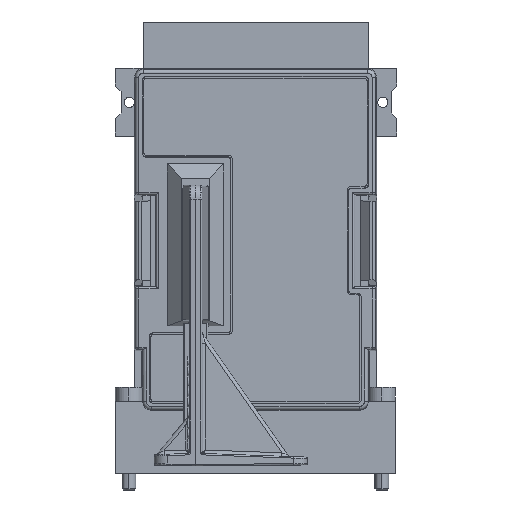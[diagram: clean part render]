
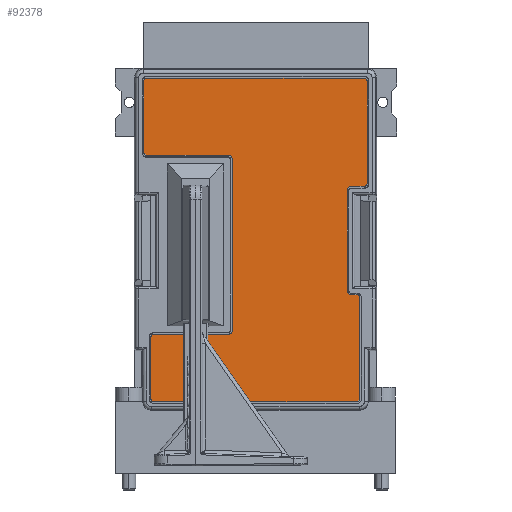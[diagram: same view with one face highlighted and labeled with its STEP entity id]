
A CAD part, front view. The second image highlights one B-rep face of the part: STEP entity #92378.
In plain terms, the highlighted planar face has unit normal (0, -1, 0) as drawn and (0, 0, 1) by its records, which use the part's own axes.
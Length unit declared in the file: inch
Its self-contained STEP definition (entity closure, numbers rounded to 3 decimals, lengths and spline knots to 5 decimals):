
#91656=CARTESIAN_POINT('',(0.1925,0.605,0.015));
#91657=DIRECTION('',(0.,0.,-1.));
#91658=DIRECTION('',(-1.,0.,0.));
#91659=AXIS2_PLACEMENT_3D('',#91656,#91657,#91658);
#91674=CARTESIAN_POINT('',(0.1925,-0.605,0.015));
#91675=DIRECTION('',(0.,0.,-1.));
#91676=DIRECTION('',(0.,-1.,0.));
#91677=AXIS2_PLACEMENT_3D('',#91674,#91675,#91676);
#91724=CARTESIAN_POINT('',(-0.6825,-0.385,0.015));
#91725=DIRECTION('',(0.,0.,-1.));
#91726=DIRECTION('',(1.,0.,0.));
#91727=AXIS2_PLACEMENT_3D('',#91724,#91725,#91726);
#91742=CARTESIAN_POINT('',(-0.6825,0.325,0.015));
#91743=DIRECTION('',(0.,0.,-1.));
#91744=DIRECTION('',(0.,1.,0.));
#91745=AXIS2_PLACEMENT_3D('',#91742,#91743,#91744);
#91771=CARTESIAN_POINT('',(0.7225,1.095,0.015));
#91772=DIRECTION('',(0.,0.,1.));
#91773=DIRECTION('',(1.,0.,0.));
#91774=AXIS2_PLACEMENT_3D('',#91771,#91772,#91773);
#91776=DIRECTION('',(0.,1.,0.));
#91777=VECTOR('',#91776,0.44);
#91778=CARTESIAN_POINT('',(0.7425,0.655,0.015));
#91779=LINE('',#91778,#91777);
#91780=CARTESIAN_POINT('',(0.7225,0.655,0.015));
#91781=DIRECTION('',(0.,0.,1.));
#91782=DIRECTION('',(0.,-1.,0.));
#91783=AXIS2_PLACEMENT_3D('',#91780,#91781,#91782);
#91785=DIRECTION('',(1.,0.,0.));
#91786=VECTOR('',#91785,0.53);
#91787=CARTESIAN_POINT('',(0.1925,0.635,0.015));
#91788=LINE('',#91787,#91786);
#91789=DIRECTION('',(0.,1.,0.));
#91790=VECTOR('',#91789,1.21);
#91791=CARTESIAN_POINT('',(0.1625,-0.605,0.015));
#91792=LINE('',#91791,#91790);
#91793=DIRECTION('',(-1.,0.,0.));
#91794=VECTOR('',#91793,0.58);
#91795=CARTESIAN_POINT('',(0.7725,-0.635,0.015));
#91796=LINE('',#91795,#91794);
#91797=CARTESIAN_POINT('',(0.7725,-0.655,0.015));
#91798=DIRECTION('',(0.,0.,1.));
#91799=DIRECTION('',(1.,0.,0.));
#91800=AXIS2_PLACEMENT_3D('',#91797,#91798,#91799);
#91802=DIRECTION('',(0.,1.,0.));
#91803=VECTOR('',#91802,0.51);
#91804=CARTESIAN_POINT('',(0.7925,-1.165,0.015));
#91805=LINE('',#91804,#91803);
#91806=CARTESIAN_POINT('',(0.7725,-1.165,0.015));
#91807=DIRECTION('',(0.,0.,1.));
#91808=DIRECTION('',(0.,-1.,0.));
#91809=AXIS2_PLACEMENT_3D('',#91806,#91807,#91808);
#91811=DIRECTION('',(1.,0.,0.));
#91812=VECTOR('',#91811,1.545);
#91813=CARTESIAN_POINT('',(-0.7725,-1.185,0.015));
#91814=LINE('',#91813,#91812);
#91815=CARTESIAN_POINT('',(-0.7725,-1.165,0.015));
#91816=DIRECTION('',(0.,0.,1.));
#91817=DIRECTION('',(-1.,0.,0.));
#91818=AXIS2_PLACEMENT_3D('',#91815,#91816,#91817);
#91820=DIRECTION('',(0.,-1.,0.));
#91821=VECTOR('',#91820,0.73);
#91822=CARTESIAN_POINT('',(-0.7925,-0.435,0.015));
#91823=LINE('',#91822,#91821);
#91824=CARTESIAN_POINT('',(-0.7725,-0.435,0.015));
#91825=DIRECTION('',(0.,0.,1.));
#91826=DIRECTION('',(0.,1.,0.));
#91827=AXIS2_PLACEMENT_3D('',#91824,#91825,#91826);
#91829=DIRECTION('',(-1.,0.,0.));
#91830=VECTOR('',#91829,0.09);
#91831=CARTESIAN_POINT('',(-0.6825,-0.415,0.015));
#91832=LINE('',#91831,#91830);
#91833=DIRECTION('',(0.,-1.,0.));
#91834=VECTOR('',#91833,0.71);
#91835=CARTESIAN_POINT('',(-0.6525,0.325,0.015));
#91836=LINE('',#91835,#91834);
#91837=DIRECTION('',(1.,0.,0.));
#91838=VECTOR('',#91837,0.04);
#91839=CARTESIAN_POINT('',(-0.7225,0.355,0.015));
#91840=LINE('',#91839,#91838);
#91841=CARTESIAN_POINT('',(-0.7225,0.375,0.015));
#91842=DIRECTION('',(0.,0.,1.));
#91843=DIRECTION('',(-1.,0.,0.));
#91844=AXIS2_PLACEMENT_3D('',#91841,#91842,#91843);
#91846=DIRECTION('',(0.,-1.,0.));
#91847=VECTOR('',#91846,0.72);
#91848=CARTESIAN_POINT('',(-0.7425,1.095,0.015));
#91849=LINE('',#91848,#91847);
#91850=CARTESIAN_POINT('',(-0.7225,1.095,0.015));
#91851=DIRECTION('',(0.,0.,1.));
#91852=DIRECTION('',(0.,1.,0.));
#91853=AXIS2_PLACEMENT_3D('',#91850,#91851,#91852);
#91855=DIRECTION('',(-1.,0.,0.));
#91856=VECTOR('',#91855,1.445);
#91857=CARTESIAN_POINT('',(0.7225,1.115,0.015));
#91858=LINE('',#91857,#91856);
#91860=CARTESIAN_POINT('',(-0.6525,0.325,0.015));
#91862=VERTEX_POINT('',#91860);
#91864=CARTESIAN_POINT('',(-0.6825,0.355,0.015));
#91866=VERTEX_POINT('',#91864);
#91868=CARTESIAN_POINT('',(-0.6825,-0.415,0.015));
#91870=VERTEX_POINT('',#91868);
#91872=CARTESIAN_POINT('',(-0.6525,-0.385,0.015));
#91874=VERTEX_POINT('',#91872);
#91876=CARTESIAN_POINT('',(0.1625,-0.605,0.015));
#91878=VERTEX_POINT('',#91876);
#91880=CARTESIAN_POINT('',(0.1925,-0.635,0.015));
#91882=VERTEX_POINT('',#91880);
#91884=CARTESIAN_POINT('',(0.1925,0.635,0.015));
#91886=VERTEX_POINT('',#91884);
#91888=CARTESIAN_POINT('',(0.1625,0.605,0.015));
#91890=VERTEX_POINT('',#91888);
#91895=CARTESIAN_POINT('',(0.7425,1.095,0.015));
#91896=VERTEX_POINT('',#91895);
#91897=CARTESIAN_POINT('',(0.7225,1.115,0.015));
#91898=VERTEX_POINT('',#91897);
#91903=CARTESIAN_POINT('',(-0.7225,1.115,0.015));
#91904=VERTEX_POINT('',#91903);
#91905=CARTESIAN_POINT('',(-0.7425,1.095,0.015));
#91906=VERTEX_POINT('',#91905);
#91911=CARTESIAN_POINT('',(-0.7425,0.375,0.015));
#91912=VERTEX_POINT('',#91911);
#91913=CARTESIAN_POINT('',(-0.7225,0.355,0.015));
#91914=VERTEX_POINT('',#91913);
#91919=CARTESIAN_POINT('',(-0.7725,-0.415,0.015));
#91920=VERTEX_POINT('',#91919);
#91921=CARTESIAN_POINT('',(-0.7925,-0.435,0.015));
#91922=VERTEX_POINT('',#91921);
#91927=CARTESIAN_POINT('',(-0.7925,-1.165,0.015));
#91928=VERTEX_POINT('',#91927);
#91929=CARTESIAN_POINT('',(-0.7725,-1.185,0.015));
#91930=VERTEX_POINT('',#91929);
#91935=CARTESIAN_POINT('',(0.7725,-1.185,0.015));
#91936=VERTEX_POINT('',#91935);
#91937=CARTESIAN_POINT('',(0.7925,-1.165,0.015));
#91938=VERTEX_POINT('',#91937);
#91943=CARTESIAN_POINT('',(0.7925,-0.655,0.015));
#91944=VERTEX_POINT('',#91943);
#91945=CARTESIAN_POINT('',(0.7725,-0.635,0.015));
#91946=VERTEX_POINT('',#91945);
#91951=CARTESIAN_POINT('',(0.7225,0.635,0.015));
#91952=VERTEX_POINT('',#91951);
#91953=CARTESIAN_POINT('',(0.7425,0.655,0.015));
#91954=VERTEX_POINT('',#91953);
#92347=CARTESIAN_POINT('',(0.,0.,0.015));
#92348=DIRECTION('',(0.,0.,1.));
#92349=DIRECTION('',(1.,0.,0.));
#92350=AXIS2_PLACEMENT_3D('',#92347,#92348,#92349);
#92351=PLANE('',#92350);
#92352=ORIENTED_EDGE('',*,*,#92019,.F.);
#92353=ORIENTED_EDGE('',*,*,#92035,.F.);
#92354=ORIENTED_EDGE('',*,*,#92048,.F.);
#92355=ORIENTED_EDGE('',*,*,#92063,.F.);
#92356=ORIENTED_EDGE('',*,*,#92077,.F.);
#92357=ORIENTED_EDGE('',*,*,#92089,.F.);
#92358=ORIENTED_EDGE('',*,*,#92105,.F.);
#92359=ORIENTED_EDGE('',*,*,#92117,.F.);
#92360=ORIENTED_EDGE('',*,*,#92132,.F.);
#92361=ORIENTED_EDGE('',*,*,#92145,.F.);
#92362=ORIENTED_EDGE('',*,*,#92160,.F.);
#92363=ORIENTED_EDGE('',*,*,#92173,.F.);
#92364=ORIENTED_EDGE('',*,*,#92188,.F.);
#92365=ORIENTED_EDGE('',*,*,#92201,.F.);
#92366=ORIENTED_EDGE('',*,*,#92216,.F.);
#92367=ORIENTED_EDGE('',*,*,#92231,.F.);
#92368=ORIENTED_EDGE('',*,*,#92245,.F.);
#92369=ORIENTED_EDGE('',*,*,#92257,.F.);
#92370=ORIENTED_EDGE('',*,*,#92273,.F.);
#92371=ORIENTED_EDGE('',*,*,#92285,.F.);
#92372=ORIENTED_EDGE('',*,*,#92300,.F.);
#92373=ORIENTED_EDGE('',*,*,#92313,.F.);
#92374=ORIENTED_EDGE('',*,*,#92328,.F.);
#92375=ORIENTED_EDGE('',*,*,#92340,.F.);
#92376=EDGE_LOOP('',(#92352,#92353,#92354,#92355,#92356,#92357,#92358,#92359,
#92360,#92361,#92362,#92363,#92364,#92365,#92366,#92367,#92368,#92369,#92370,
#92371,#92372,#92373,#92374,#92375));
#92377=FACE_OUTER_BOUND('',#92376,.F.);
#91660=CIRCLE('',#91659,0.03);
#91678=CIRCLE('',#91677,0.03);
#91728=CIRCLE('',#91727,0.03);
#91746=CIRCLE('',#91745,0.03);
#91775=CIRCLE('',#91774,0.02);
#91784=CIRCLE('',#91783,0.02);
#91801=CIRCLE('',#91800,0.02);
#91810=CIRCLE('',#91809,0.02);
#91819=CIRCLE('',#91818,0.02);
#91828=CIRCLE('',#91827,0.02);
#91845=CIRCLE('',#91844,0.02);
#91854=CIRCLE('',#91853,0.02);
#92019=EDGE_CURVE('',#91896,#91898,#91775,.T.);
#92035=EDGE_CURVE('',#91954,#91896,#91779,.T.);
#92048=EDGE_CURVE('',#91952,#91954,#91784,.T.);
#92063=EDGE_CURVE('',#91886,#91952,#91788,.T.);
#92077=EDGE_CURVE('',#91890,#91886,#91660,.T.);
#92089=EDGE_CURVE('',#91878,#91890,#91792,.T.);
#92105=EDGE_CURVE('',#91882,#91878,#91678,.T.);
#92117=EDGE_CURVE('',#91946,#91882,#91796,.T.);
#92132=EDGE_CURVE('',#91944,#91946,#91801,.T.);
#92145=EDGE_CURVE('',#91938,#91944,#91805,.T.);
#92160=EDGE_CURVE('',#91936,#91938,#91810,.T.);
#92173=EDGE_CURVE('',#91930,#91936,#91814,.T.);
#92188=EDGE_CURVE('',#91928,#91930,#91819,.T.);
#92201=EDGE_CURVE('',#91922,#91928,#91823,.T.);
#92216=EDGE_CURVE('',#91920,#91922,#91828,.T.);
#92231=EDGE_CURVE('',#91870,#91920,#91832,.T.);
#92245=EDGE_CURVE('',#91874,#91870,#91728,.T.);
#92257=EDGE_CURVE('',#91862,#91874,#91836,.T.);
#92273=EDGE_CURVE('',#91866,#91862,#91746,.T.);
#92285=EDGE_CURVE('',#91914,#91866,#91840,.T.);
#92300=EDGE_CURVE('',#91912,#91914,#91845,.T.);
#92313=EDGE_CURVE('',#91906,#91912,#91849,.T.);
#92328=EDGE_CURVE('',#91904,#91906,#91854,.T.);
#92340=EDGE_CURVE('',#91898,#91904,#91858,.T.);
#92378=ADVANCED_FACE('',(#92377),#92351,.T.);
